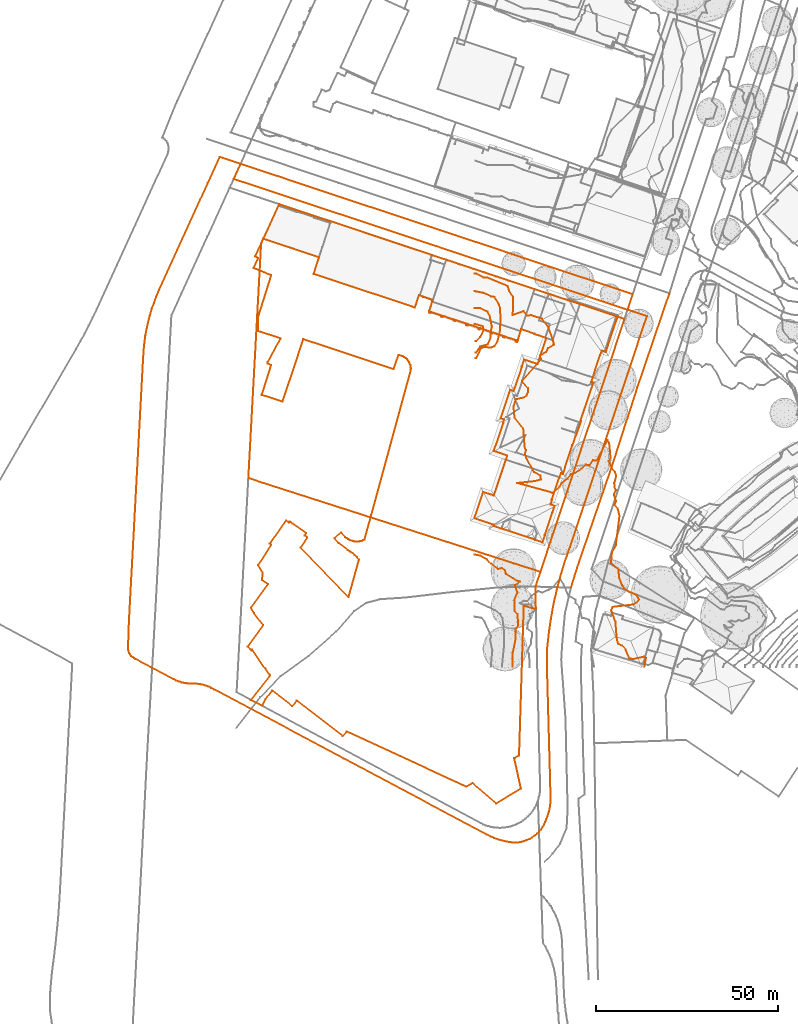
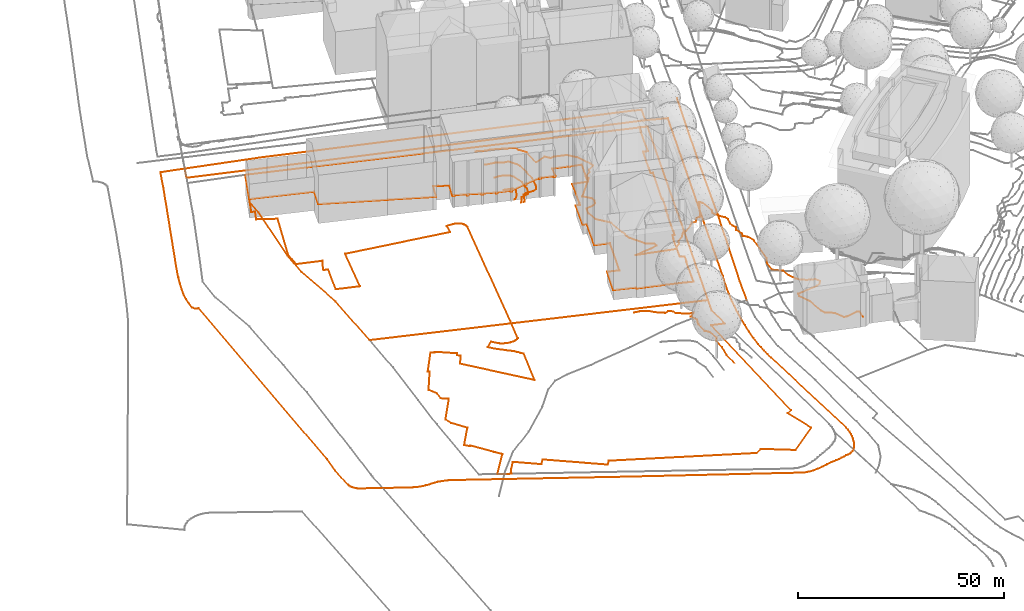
# Not in any storey, part 92 of 494: 10 proxies.
"""IFC2X3 model written with IfcOpenShell, lengths in metres."""

from ifc_helpers import new_model, entity, si_unit, frame, origin_with_axes, place, context, subcontext, project, element, save


model = new_model("IFC2X3")

# Units and contexts
model_context = context("Model", 3, precision=1e-05, world=origin_with_axes())
body_context = subcontext(model_context, "Body", "Model", "MODEL_VIEW")
ifc_project = project(units=[si_unit("AREAUNIT", "SQUARE_METRE"), si_unit("LENGTHUNIT", "METRE")], contexts=[model_context])

# Proxies
proxy_1_placement = place(None, frame((25.642732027, 20.4637425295, 527.881), z_axis=(0.0, 0.0, 1.0), x_axis=(1.0, 0.0, 0.0)))
element("IfcBuildingElementProxy", 1, at=proxy_1_placement, Name="Road 76", ObjectType="NOTDEFINED", context=body_context, shape_type="GeometricCurveSet", body=[
    entity("IfcGeometricCurveSet", [entity("IfcPolyline", [entity("IfcCartesianPoint", [0.0, 0.0, 0.0]), entity("IfcCartesianPoint", [2.3489999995, 7.4879997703, 0.317]), entity("IfcCartesianPoint", [11.4539999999, 33.9199989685, 0.851]), entity("IfcCartesianPoint", [18.2089999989, 54.9179983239, 1.247]), entity("IfcCartesianPoint", [27.0190000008, 80.7629975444, 1.587])])]),
])
proxy_2_placement = place(None, frame((-66.9082679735, 132.6027160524, 528.6036984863), z_axis=(0.0, 0.0, 1.0), x_axis=(1.0, 0.0, 0.0)))
element("IfcBuildingElementProxy", 2, at=proxy_2_placement, Name="Roads Outline 3", ObjectType="NOTDEFINED", context=body_context, shape_type="GeometricCurveSet", body=[
    entity("IfcGeometricCurveSet", [entity("IfcPolyline", [entity("IfcCartesianPoint", [0.0, 0.0, 0.0]), entity("IfcCartesianPoint", [1.8840000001, 4.1429999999, -0.4546460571]), entity("IfcCartesianPoint", [20.327, -1.9890000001, 0.2302937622]), entity("IfcCartesianPoint", [107.2760000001, -30.8959999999, 1.0697689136]), entity("IfcCartesianPoint", [109.5020000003, -31.6359999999, 1.0313595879]), entity("IfcCartesianPoint", [108.085, -35.899, 0.9999662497]), entity("IfcCartesianPoint", [0.0, 0.0, 0.0])])]),
])
proxy_3_placement = place(None, frame((-63.0402679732, 4.3537160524, 525.6837249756), z_axis=(0.0, 0.0, 1.0), x_axis=(1.0, 0.0, 0.0)))
element("IfcBuildingElementProxy", 3, at=proxy_3_placement, Name="Roads Outline 28", ObjectType="NOTDEFINED", context=body_context, shape_type="GeometricCurveSet", body=[
    entity("IfcGeometricCurveSet", [entity("IfcPolyline", [entity("IfcCartesianPoint", [0.0, 0.0, 0.0]), entity("IfcCartesianPoint", [4.264, 5.791, 0.1184112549]), entity("IfcCartesianPoint", [1.696, 9.1710000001, 0.4172806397]), entity("IfcCartesianPoint", [0.8769999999, 10.611, 0.8488730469]), entity("IfcCartesianPoint", [5.5499999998, 17.0220000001, 1.499630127]), entity("IfcCartesianPoint", [3.9180000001, 18.1300000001, 1.5220515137]), entity("IfcCartesianPoint", [4.102, 20.2070000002, 1.6666809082]), entity("IfcCartesianPoint", [2.858, 22.2610000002, 1.8861427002]), entity("IfcCartesianPoint", [6.4589999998, 27.9010000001, 2.6637408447]), entity("IfcCartesianPoint", [6.057, 28.1780000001, 2.6776043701]), entity("IfcCartesianPoint", [10.4649999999, 34.486, 2.8925315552]), entity("IfcCartesianPoint", [11.273, 33.9070000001, 2.8793292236]), entity("IfcCartesianPoint", [11.4899999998, 34.2170000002, 2.8852325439]), entity("IfcCartesianPoint", [12.3319999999, 33.6670000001, 2.8747589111]), entity("IfcCartesianPoint", [16.0269999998, 31.101, 2.764182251]), entity("IfcCartesianPoint", [15.571, 30.442, 2.7493804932]), entity("IfcCartesianPoint", [16.3429999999, 29.8900000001, 2.724289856]), entity("IfcCartesianPoint", [14.5299999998, 27.1510000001, 2.6037419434]), entity("IfcCartesianPoint", [27.645, 13.5900000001, 1.3920783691]), entity("IfcCartesianPoint", [30.5099999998, 23.807, 1.9889050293]), entity("IfcCartesianPoint", [29.9559999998, 24.4540000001, 2.0581810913]), entity("IfcCartesianPoint", [29.3489999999, 25.05, 2.1817536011]), entity("IfcCartesianPoint", [28.7519999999, 25.55, 2.2865168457]), entity("IfcCartesianPoint", [28.1179999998, 26.003, 2.3825692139]), entity("IfcCartesianPoint", [27.4499999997, 26.405, 2.4654605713]), entity("IfcCartesianPoint", [24.9649999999, 28.3570000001, 2.6849542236]), entity("IfcCartesianPoint", [23.7790000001, 29.71, 2.7148965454]), entity("IfcCartesianPoint", [25.585, 31.29, 2.7684273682]), entity("IfcCartesianPoint", [26.7719999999, 29.936, 2.7266903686]), entity("IfcCartesianPoint", [27.159, 29.6459999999, 2.7115567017]), entity("IfcCartesianPoint", [27.571, 29.3940000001, 2.6984060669]), entity("IfcCartesianPoint", [28.0049999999, 29.1810000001, 2.6930513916]), entity("IfcCartesianPoint", [28.4569999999, 29.01, 2.6913710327]), entity("IfcCartesianPoint", [28.9070000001, 28.8700000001, 2.6899953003]), entity("IfcCartesianPoint", [29.3700000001, 28.7820000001, 2.6891305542]), entity("IfcCartesianPoint", [29.8399999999, 28.746, 2.6887767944]), entity("IfcCartesianPoint", [30.3109999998, 28.763, 2.6889438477]), entity("IfcCartesianPoint", [30.7620000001, 28.8290000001, 2.6895924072]), entity("IfcCartesianPoint", [31.2029999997, 28.9450000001, 2.6907322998]), entity("IfcCartesianPoint", [31.6289999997, 29.108, 2.6923340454]), entity("IfcCartesianPoint", [32.034, 29.317, 2.6943878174]), entity("IfcCartesianPoint", [33.8739999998, 36.051, 2.9267637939]), entity("IfcCartesianPoint", [44.7399999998, 75.7890000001, 3.0942672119]), entity("IfcCartesianPoint", [44.7539999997, 76.2480000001, 3.092642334]), entity("IfcCartesianPoint", [44.7140000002, 76.7050000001, 3.0850093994]), entity("IfcCartesianPoint", [44.6189999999, 77.1540000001, 3.0764591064]), entity("IfcCartesianPoint", [44.4709999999, 77.5890000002, 3.0027486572]), entity("IfcCartesianPoint", [44.273, 78.003, 2.8952814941]), entity("IfcCartesianPoint", [44.0049999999, 78.419, 2.7870336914]), entity("IfcCartesianPoint", [43.6859999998, 78.797, 2.6879425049]), entity("IfcCartesianPoint", [43.321, 79.1310000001, 2.6003857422]), entity("IfcCartesianPoint", [42.9169999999, 79.416, 2.4823435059]), entity("IfcCartesianPoint", [42.4789999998, 79.6459999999, 2.3213828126]), entity("IfcCartesianPoint", [41.327, 79.983, 2.0855404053]), entity("IfcCartesianPoint", [40.0209999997, 76.064, 3.0932937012]), entity("IfcCartesianPoint", [15.2409999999, 84.2950000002, 0.3151472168]), entity("IfcCartesianPoint", [9.5180000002, 67.1510000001, 3.080034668]), entity("IfcCartesianPoint", [3.818, 69.0150000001, 3.0681838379]), entity("IfcCartesianPoint", [6.4109999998, 77.135, 3.0768209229]), entity("IfcCartesianPoint", [5.4589999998, 77.635, 2.9908078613]), entity("IfcCartesianPoint", [5.4839999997, 78.057, 2.8812640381]), entity("IfcCartesianPoint", [9.0039999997, 84.5060000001, 0.311003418]), entity("IfcCartesianPoint", [2.898, 86.5190000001, 0.2506137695]), entity("IfcCartesianPoint", [2.875, 90.5360000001, 0.6634082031]), entity("IfcCartesianPoint", [6.449, 101.851, 3.156569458]), entity("IfcCartesianPoint", [1.5809999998, 103.791, 3.5085565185]), entity("IfcCartesianPoint", [2.6459999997, 106.1170000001, 3.6748687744]), entity("IfcCartesianPoint", [2.8589999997, 106.5830000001, 3.6426917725]), entity("IfcCartesianPoint", [2.0249999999, 106.9650000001, 3.6142935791]), entity("IfcCartesianPoint", [3.676, 110.577, 3.7259869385]), entity("IfcCartesianPoint", [3.8859999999, 111.027, 3.7293377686]), entity("IfcCartesianPoint", [4.2689999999, 111.8630000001, 3.6867414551]), entity("IfcCartesianPoint", [19.5379999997, 106.7439999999, 3.6307229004]), entity("IfcCartesianPoint", [18.0609999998, 102.2110000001, 3.2285518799]), entity("IfcCartesianPoint", [34.3649999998, 96.7720000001, 2.0611691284]), entity("IfcCartesianPoint", [34.378, 96.8220000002, 2.0720303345]), entity("IfcCartesianPoint", [45.068, 93.2490000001, 1.2856575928]), entity("IfcCartesianPoint", [45.051, 93.182, 1.2708255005]), entity("IfcCartesianPoint", [45.8199999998, 92.9280000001, 1.2145963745]), entity("IfcCartesianPoint", [46.969, 96.3770000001, 1.9753656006]), entity("IfcCartesianPoint", [48.1430000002, 95.987, 1.8901043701]), entity("IfcCartesianPoint", [48.1069999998, 95.8800000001, 1.8666850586]), entity("IfcCartesianPoint", [50.7339999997, 95.0050000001, 1.6743912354]), entity("IfcCartesianPoint", [49.713, 91.939, 0.9936497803]), entity("IfcCartesianPoint", [49.824, 91.902, 0.9852624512]), entity("IfcCartesianPoint", [49.7229999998, 91.5990000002, 0.9165770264]), entity("IfcCartesianPoint", [50.1030000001, 91.4720000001, 0.8877880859]), entity("IfcCartesianPoint", [50.2069999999, 91.7850000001, 0.9587403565]), entity("IfcCartesianPoint", [53.1859999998, 90.794, 0.7259240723]), entity("IfcCartesianPoint", [53.0819999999, 90.4810000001, 0.6500811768]), entity("IfcCartesianPoint", [53.4619999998, 90.355, 0.6195501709]), entity("IfcCartesianPoint", [53.5660000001, 90.6680000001, 0.6953930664]), entity("IfcCartesianPoint", [56.602, 89.6570000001, 0.4510626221]), entity("IfcCartesianPoint", [56.4980000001, 89.344, 0.3755253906]), entity("IfcCartesianPoint", [56.8769999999, 89.2180000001, 0.3533472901]), entity("IfcCartesianPoint", [56.9819999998, 89.53, 0.4204133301]), entity("IfcCartesianPoint", [59.9909999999, 88.531, 0.2446617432]), entity("IfcCartesianPoint", [59.8859999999, 88.2170000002, 0.2113922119]), entity("IfcCartesianPoint", [60.2650000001, 88.091, 0.2121304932]), entity("IfcCartesianPoint", [60.3700000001, 88.405, 0.2247281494]), entity("IfcCartesianPoint", [63.3859999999, 87.399, 0.2578851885]), entity("IfcCartesianPoint", [63.2820000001, 87.0860000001, 0.2570379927]), entity("IfcCartesianPoint", [63.6519999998, 86.963, 0.2912049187]), entity("IfcCartesianPoint", [63.7560000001, 87.2760000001, 0.2851047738]), entity("IfcCartesianPoint", [66.7829999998, 86.2680000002, 1.6345501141]), entity("IfcCartesianPoint", [66.679, 85.9550000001, 1.5774089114]), entity("IfcCartesianPoint", [67.0579999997, 85.8290000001, 1.7542912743]), entity("IfcCartesianPoint", [67.162, 86.142, 1.8074264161]), entity("IfcCartesianPoint", [70.1889999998, 85.1340000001, 3.0522306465]), entity("IfcCartesianPoint", [70.085, 84.821, 3.0170545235]), entity("IfcCartesianPoint", [70.4550000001, 84.6980000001, 3.0848150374]), entity("IfcCartesianPoint", [70.5589999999, 85.0110000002, 3.0877237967]), entity("IfcCartesianPoint", [73.5869999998, 84.003, 3.0937452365]), entity("IfcCartesianPoint", [73.483, 83.6900000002, 3.0991529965]), entity("IfcCartesianPoint", [73.8619999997, 83.564, 3.088643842]), entity("IfcCartesianPoint", [73.963, 83.868, 3.0755243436]), entity("IfcCartesianPoint", [74.077, 83.8300000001, 3.0714270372]), entity("IfcCartesianPoint", [75.0079999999, 87.0060000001, 3.0131993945]), entity("IfcCartesianPoint", [78.7319999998, 85.767, 3.1050908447]), entity("IfcCartesianPoint", [78.7069999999, 85.6640000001, 3.1015668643]), entity("IfcCartesianPoint", [81.6329999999, 84.6910000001, 3.2339832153]), entity("IfcCartesianPoint", [81.8989999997, 84.6030000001, 3.2461398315]), entity("IfcCartesianPoint", [79.5249999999, 77.459, 3.3408582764]), entity("IfcCartesianPoint", [75.824, 78.6880000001, 3.2370737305]), entity("IfcCartesianPoint", [75.2080000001, 76.838, 3.2606502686]), entity("IfcCartesianPoint", [75.2549999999, 76.8220000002, 3.2619755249]), entity("IfcCartesianPoint", [73.2650000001, 70.8320000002, 3.2639450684]), entity("IfcCartesianPoint", [73.2179999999, 70.848, 3.2631072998]), entity("IfcCartesianPoint", [72.952, 70.0490000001, 3.2651387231]), entity("IfcCartesianPoint", [71.9909999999, 70.368, 3.246715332]), entity("IfcCartesianPoint", [69.3930000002, 62.557, 3.2155612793]), entity("IfcCartesianPoint", [70.355, 62.2380000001, 3.2365511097]), entity("IfcCartesianPoint", [70.0959999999, 61.459, 3.2249758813]), entity("IfcCartesianPoint", [70.1439999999, 61.443, 3.2258059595]), entity("IfcCartesianPoint", [68.1409999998, 55.416, 3.1797402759]), entity("IfcCartesianPoint", [68.0929999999, 55.432, 3.1790493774]), entity("IfcCartesianPoint", [67.486, 53.605, 3.1907124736]), entity("IfcCartesianPoint", [71.1869999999, 52.375, 3.2233741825]), entity("IfcCartesianPoint", [67.5279999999, 41.368, 3.1102470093]), entity("IfcCartesianPoint", [64.5809999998, 42.348, 3.1686398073]), entity("IfcCartesianPoint", [62.1770000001, 35.142, 2.9134719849]), entity("IfcCartesianPoint", [67.568, 33.351, 2.8561185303]), entity("IfcCartesianPoint", [67.4509999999, 33.0, 2.8432216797]), entity("IfcCartesianPoint", [69.4440000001, 32.3370000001, 2.8527307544]), entity("IfcCartesianPoint", [69.46, 32.3840000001, 2.8544819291]), entity("IfcCartesianPoint", [78.9219999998, 29.24, 2.9057092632]), entity("IfcCartesianPoint", [78.906, 29.193, 2.9048253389]), entity("IfcCartesianPoint", [80.8789999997, 28.5380000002, 2.8714425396]), entity("IfcCartesianPoint", [81.5419999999, 30.531, 2.9297599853]), entity("IfcCartesianPoint", [81.4950000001, 30.547, 2.9304465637]), entity("IfcCartesianPoint", [83.4950000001, 36.564, 3.0985984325]), entity("IfcCartesianPoint", [83.5419999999, 36.548, 3.0947475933]), entity("IfcCartesianPoint", [84.2089999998, 38.5520000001, 3.1293281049]), entity("IfcCartesianPoint", [83.0589999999, 38.9340000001, 3.1891395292]), entity("IfcCartesianPoint", [83.4899999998, 40.2250000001, 3.1802594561]), entity("IfcCartesianPoint", [83.443, 40.2410000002, 3.1805015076]), entity("IfcCartesianPoint", [85.446, 46.2580000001, 3.3652413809]), entity("IfcCartesianPoint", [85.4929999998, 46.2420000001, 3.3628481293]), entity("IfcCartesianPoint", [85.923, 47.5320000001, 3.414232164]), entity("IfcCartesianPoint", [86.4920000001, 47.3420000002, 3.3829816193]), entity("IfcCartesianPoint", [87.105, 49.1840000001, 3.4065753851]), entity("IfcCartesianPoint", [87.0579999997, 49.2, 3.4109757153]), entity("IfcCartesianPoint", [89.0619999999, 55.216, 3.4953983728]), entity("IfcCartesianPoint", [89.1089999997, 55.2, 3.4923149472]), entity("IfcCartesianPoint", [89.6680000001, 56.879, 3.531707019]), entity("IfcCartesianPoint", [89.6209999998, 56.895, 3.5355511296]), entity("IfcCartesianPoint", [89.9399999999, 57.8540000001, 3.5630180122]), entity("IfcCartesianPoint", [90.1009999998, 57.8, 3.5457037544]), entity("IfcCartesianPoint", [91.4539999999, 61.8640000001, 3.5692105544]), entity("IfcCartesianPoint", [91.2909999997, 61.9180000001, 3.5771376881]), entity("IfcCartesianPoint", [94.8360000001, 72.398, 3.7109557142]), entity("IfcCartesianPoint", [94.267, 72.588, 3.7447742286]), entity("IfcCartesianPoint", [94.8829999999, 74.4380000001, 3.8181295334]), entity("IfcCartesianPoint", [94.8360000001, 74.4540000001, 3.8228062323]), entity("IfcCartesianPoint", [96.6529999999, 79.9100000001, 3.8535547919]), entity("IfcCartesianPoint", [96.6999999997, 79.8940000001, 3.8507631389]), entity("IfcCartesianPoint", [97.128, 81.1780000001, 3.8687179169]), entity("IfcCartesianPoint", [98.2560000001, 80.8030000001, 3.8167791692]), entity("IfcCartesianPoint", [98.9249999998, 82.794, 3.8403510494]), entity("IfcCartesianPoint", [98.878, 82.8100000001, 3.8439484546]), entity("IfcCartesianPoint", [100.8969999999, 88.8200000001, 3.9248877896]), entity("IfcCartesianPoint", [100.9440000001, 88.804, 3.9197014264]), entity("IfcCartesianPoint", [101.4929999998, 90.4380000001, 3.9540633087]), entity("IfcCartesianPoint", [103.3730000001, 89.8120000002, 3.8876880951]), entity("IfcCartesianPoint", [80.298, 20.4070000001, 2.5428819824]), entity("IfcCartesianPoint", [78.9279999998, 16.2760000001, 2.4160954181]), entity("IfcCartesianPoint", [79.0729999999, 10.2080000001, 2.2072965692]), entity("IfcCartesianPoint", [75.7429999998, 11.102, 2.3491719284]), entity("IfcCartesianPoint", [74.4559999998, -29.939, 2.5237546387]), entity("IfcCartesianPoint", [73.1349999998, -30.692, 2.4504216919]), entity("IfcCartesianPoint", [74.9729999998, -38.963, 2.5195578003]), entity("IfcCartesianPoint", [68.125, -43.122, 0.8424121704]), entity("IfcCartesianPoint", [61.6359999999, -37.4949999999, 0.0167755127]), entity("IfcCartesianPoint", [59.9399999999, -38.513, 0.0167755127]), entity("IfcCartesianPoint", [27.1319999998, -23.352, 0.0167755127]), entity("IfcCartesianPoint", [26.088, -24.659, 0.0167755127]), entity("IfcCartesianPoint", [13.4580000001, -14.8569999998, 0.0167755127]), entity("IfcCartesianPoint", [12.2199999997, -16.4379999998, 0.0167755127]), entity("IfcCartesianPoint", [6.6869999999, -12.105, 0.0167755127]), entity("IfcCartesianPoint", [4.8560000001, -14.51, 0.0167755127]), entity("IfcCartesianPoint", [3.8629999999, -16.311, 0.0167755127]), entity("IfcCartesianPoint", [0.841, -14.6909999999, 0.0167755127]), entity("IfcCartesianPoint", [6.1319999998, -7.986, 0.0167755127]), entity("IfcCartesianPoint", [5.9339999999, -7.699, 0.0167755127]), entity("IfcCartesianPoint", [4.827, -6.1579999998, 0.0167755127]), entity("IfcCartesianPoint", [1.2239999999, -0.899, 0.0017784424]), entity("IfcCartesianPoint", [1.0430000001, -1.1509999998, 0.0062850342]), entity("IfcCartesianPoint", [0.0, 0.0, 0.0])])]),
])
proxy_4_placement = place(None, frame((-95.8792679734, 3.9717160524, 525.6825592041), z_axis=(0.0, 0.0, 1.0), x_axis=(1.0, 0.0, 0.0)))
element("IfcBuildingElementProxy", 4, at=proxy_4_placement, Name="Roads Outline 29", ObjectType="NOTDEFINED", context=body_context, shape_type="GeometricCurveSet", body=[
    entity("IfcGeometricCurveSet", [entity("IfcPolyline", [entity("IfcCartesianPoint", [0.0, 0.0, 0.0]), entity("IfcCartesianPoint", [0.2090000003, 6.5220000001, 0.1259674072]), entity("IfcCartesianPoint", [0.4309999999, 10.8390000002, 0.8052130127]), entity("IfcCartesianPoint", [4.1469999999, 79.716, 2.5408952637]), entity("IfcCartesianPoint", [4.2660000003, 81.645, 1.1758549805]), entity("IfcCartesianPoint", [4.4580000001, 83.568, 0.352380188]), entity("IfcCartesianPoint", [4.7230000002, 85.4820000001, 0.3002050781]), entity("IfcCartesianPoint", [5.0600000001, 87.385, 0.2311894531]), entity("IfcCartesianPoint", [5.4700000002, 89.274, 0.3029388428]), entity("IfcCartesianPoint", [5.9360000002, 91.084, 0.7047973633]), entity("IfcCartesianPoint", [6.4670000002, 92.8759999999, 1.1196856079]), entity("IfcCartesianPoint", [7.0649999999, 94.6459999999, 1.5115184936]), entity("IfcCartesianPoint", [7.727, 96.3940000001, 1.8967419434]), entity("IfcCartesianPoint", [8.4530000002, 98.1160000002, 2.2713045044]), entity("IfcCartesianPoint", [21.8790000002, 127.578, 3.0430595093]), entity("IfcCartesianPoint", [25.125, 134.679, 2.2582330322]), entity("IfcCartesianPoint", [30.855, 132.774, 2.4664932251]), entity("IfcCartesianPoint", [28.9709999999, 128.6310000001, 2.9211392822]), entity("IfcCartesianPoint", [137.0559999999, 92.7320000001, 3.9211055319]), entity("IfcCartesianPoint", [142.355, 90.9720000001, 3.7318244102]), entity("IfcCartesianPoint", [141.6189999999, 88.7720000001, 3.6959359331]), entity("IfcCartesianPoint", [121.25, 27.679, 2.6218205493]), entity("IfcCartesianPoint", [120.4100000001, 25.325, 2.5217339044]), entity("IfcCartesianPoint", [119.6260000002, 22.952, 2.4582699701]), entity("IfcCartesianPoint", [118.8969999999, 20.561, 2.3808017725]), entity("IfcCartesianPoint", [118.2239999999, 18.1529999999, 2.2891087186]), entity("IfcCartesianPoint", [117.608, 15.7310000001, 2.2245042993]), entity("IfcCartesianPoint", [117.0490000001, 13.2950000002, 2.1167274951]), entity("IfcCartesianPoint", [116.5, 10.6000000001, 2.0274228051]), entity("IfcCartesianPoint", [116.0210000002, 7.892, 1.9163168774]), entity("IfcCartesianPoint", [115.6120000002, 5.172, 1.8078262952]), entity("IfcCartesianPoint", [115.273, 2.443, 1.7109503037]), entity("IfcCartesianPoint", [115.0049999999, -0.294, 1.6093416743]), entity("IfcCartesianPoint", [115.0249999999, -1.713, 1.533269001]), entity("IfcCartesianPoint", [115.0330000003, -3.132, 1.4580318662]), entity("IfcCartesianPoint", [115.0240000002, -4.852, 1.4025044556]), entity("IfcCartesianPoint", [114.9939999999, -6.5719999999, 1.404428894]), entity("IfcCartesianPoint", [115.9610000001, -41.355, 1.4358656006]), entity("IfcCartesianPoint", [115.923, -42.3529999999, 1.4343742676]), entity("IfcCartesianPoint", [115.8170000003, -43.3459999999, 1.4302142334]), entity("IfcCartesianPoint", [115.6430000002, -44.3289999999, 1.4233854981]), entity("IfcCartesianPoint", [115.4020000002, -45.2989999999, 1.4139273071]), entity("IfcCartesianPoint", [115.0950000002, -46.2490000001, 1.4018789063]), entity("IfcCartesianPoint", [114.7239999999, -47.176, 1.4217488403]), entity("IfcCartesianPoint", [114.4450000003, -47.8869999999, 1.4396461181]), entity("IfcCartesianPoint", [114.1090000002, -48.5729999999, 1.4611998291]), entity("IfcCartesianPoint", [113.7179999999, -49.23, 1.4776121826]), entity("IfcCartesianPoint", [113.2760000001, -49.8529999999, 1.4946619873]), entity("IfcCartesianPoint", [112.784, -50.4379999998, 1.5309696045]), entity("IfcCartesianPoint", [112.199, -51.0249999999, 1.5906693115]), entity("IfcCartesianPoint", [111.5649999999, -51.558, 1.7598414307]), entity("IfcCartesianPoint", [110.8870000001, -52.0330000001, 1.9723870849]), entity("IfcCartesianPoint", [110.1690000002, -52.446, 2.1955350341]), entity("IfcCartesianPoint", [109.4169999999, -52.7949999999, 2.4012420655]), entity("IfcCartesianPoint", [108.6380000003, -53.0759999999, 2.5063232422]), entity("IfcCartesianPoint", [107.8370000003, -53.2879999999, 2.5205206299]), entity("IfcCartesianPoint", [107.0210000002, -53.4269999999, 2.5245672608]), entity("IfcCartesianPoint", [106.1950000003, -53.4949999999, 2.4721356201]), entity("IfcCartesianPoint", [105.0300000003, -53.385, 2.3143251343]), entity("IfcCartesianPoint", [103.875, -53.2049999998, 1.9795073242]), entity("IfcCartesianPoint", [102.7320000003, -52.9539999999, 1.5134887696]), entity("IfcCartesianPoint", [101.608, -52.6329999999, 1.1125405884]), entity("IfcCartesianPoint", [100.5040000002, -52.2439999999, 0.7050781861]), entity("IfcCartesianPoint", [99.4270000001, -51.7879999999, 0.413838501]), entity("IfcCartesianPoint", [98.3799999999, -51.267, 0.2103104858]), entity("IfcCartesianPoint", [59.1550000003, -30.368, 0.0179412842]), entity("IfcCartesianPoint", [23.5959999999, -11.4139999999, 0.0179412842]), entity("IfcCartesianPoint", [22.841, -11.0079999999, 0.0179412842]), entity("IfcCartesianPoint", [22.0580000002, -10.6580000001, 0.0179412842]), entity("IfcCartesianPoint", [21.2519999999, -10.3669999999, 0.0179412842]), entity("IfcCartesianPoint", [20.426, -10.1359999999, 0.0179412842]), entity("IfcCartesianPoint", [19.5860000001, -9.9669999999, 0.0179412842]), entity("IfcCartesianPoint", [18.7349999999, -9.8589999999, 0.0179412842]), entity("IfcCartesianPoint", [17.8790000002, -9.8149999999, 0.0179412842]), entity("IfcCartesianPoint", [17.0830000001, -9.825, 0.0179412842]), entity("IfcCartesianPoint", [16.2880000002, -9.7759999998, 0.0179412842]), entity("IfcCartesianPoint", [15.4990000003, -9.6669999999, 0.0179412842]), entity("IfcCartesianPoint", [14.7200000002, -9.4990000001, 0.0179412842]), entity("IfcCartesianPoint", [13.9569999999, -9.273, 0.0179412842]), entity("IfcCartesianPoint", [13.2120000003, -8.99, 0.0179412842]), entity("IfcCartesianPoint", [12.4909999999, -8.652, 0.0179412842]), entity("IfcCartesianPoint", [6.611, -5.534, 0.0179412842]), entity("IfcCartesianPoint", [2.0060000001, -3.0919999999, 0.04662323]), entity("IfcCartesianPoint", [1.5830000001, -2.855, 0.0368591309]), entity("IfcCartesianPoint", [1.1970000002, -2.5619999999, 0.0247879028]), entity("IfcCartesianPoint", [0.855, -2.2179999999, 0.0142781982]), entity("IfcCartesianPoint", [0.5640000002, -1.831, 0.0154119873]), entity("IfcCartesianPoint", [0.3289999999, -1.4069999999, 0.0166541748]), entity("IfcCartesianPoint", [0.1540000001, -0.9549999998, 0.0107770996]), entity("IfcCartesianPoint", [0.0440000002, -0.483, 0.0023361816]), entity("IfcCartesianPoint", [0.0, 0.0, 0.0])])]),
])
proxy_5_placement = place(None, frame((-62.8782679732, 50.5037160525, 528.799663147), z_axis=(0.0, 0.0, 1.0), x_axis=(1.0, 0.0, 0.0)))
element("IfcBuildingElementProxy", 5, at=proxy_5_placement, Name="Cadastre 82", ObjectType="NOTDEFINED", context=body_context, shape_type="GeometricCurveSet", body=[
    entity("IfcGeometricCurveSet", [entity("IfcPolyline", [entity("IfcCartesianPoint", [0.0, 0.0, 0.0]), entity("IfcCartesianPoint", [0.9920000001, 18.2689999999, -0.0045663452]), entity("IfcCartesianPoint", [1.9920000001, 36.5319999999, -2.6836051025]), entity("IfcCartesianPoint", [2.4129999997, 44.1529999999, -2.5089744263]), entity("IfcCartesianPoint", [3.2539999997, 59.6159999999, 0.5806967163]), entity("IfcCartesianPoint", [3.514, 64.4269999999, 0.6100487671]), entity("IfcCartesianPoint", [3.7239999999, 64.8769999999, 0.6133995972]), entity("IfcCartesianPoint", [8.4449999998, 75.179, 0.5034064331]), entity("IfcCartesianPoint", [103.2110000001, 43.662, 0.7717499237]), entity("IfcCartesianPoint", [80.1359999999, -25.743, -0.573056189]), entity("IfcCartesianPoint", [0.0, 0.0, 0.0])])]),
])
proxy_6_placement = place(None, frame((-0.8222679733, 88.0750985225, 526.0), z_axis=(0.0, 0.0, 1.0), x_axis=(1.0, 0.0, 0.0)))
element("IfcBuildingElementProxy", 6, at=proxy_6_placement, Name="Contour Line 526.0 m", ObjectType="NOTDEFINED", context=body_context, shape_type="GeometricCurveSet", body=[
    entity("IfcGeometricCurveSet", [entity("IfcPolyline", [entity("IfcCartesianPoint", [0.0, 0.0, 0.0]), entity("IfcCartesianPoint", [0.5, 0.0, 0.0]), entity("IfcCartesianPoint", [1.5, 1.0852548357, 0.0]), entity("IfcCartesianPoint", [2.5031144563, 3.0956175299, 0.0]), entity("IfcCartesianPoint", [2.3101694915, 4.0956175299, 0.0]), entity("IfcCartesianPoint", [0.0, 4.7622841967, 0.0])])]),
])
proxy_7_placement = place(None, frame((-0.8222679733, 84.9189039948, 527.0), z_axis=(0.0, 0.0, 1.0), x_axis=(1.0, 0.0, 0.0)))
element("IfcBuildingElementProxy", 7, at=proxy_7_placement, Name="Contour Line 527.0 m", ObjectType="NOTDEFINED", context=body_context, shape_type="GeometricCurveSet", body=[
    entity("IfcGeometricCurveSet", [entity("IfcPolyline", [entity("IfcCartesianPoint", [0.0, 0.0, 0.0]), entity("IfcCartesianPoint", [0.5, 0.0, 0.0]), entity("IfcCartesianPoint", [1.5, 1.7560593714, 0.0]), entity("IfcCartesianPoint", [3.6307148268, 2.2518120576, 0.0]), entity("IfcCartesianPoint", [4.4724129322, 4.2518120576, 0.0]), entity("IfcCartesianPoint", [4.3928955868, 5.2518120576, 0.0]), entity("IfcCartesianPoint", [4.7776724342, 7.2518120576, 0.0]), entity("IfcCartesianPoint", [4.161431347, 10.2518120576, 0.0]), entity("IfcCartesianPoint", [3.5601785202, 11.2518120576, 0.0]), entity("IfcCartesianPoint", [1.5, 12.2413651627, 0.0]), entity("IfcCartesianPoint", [0.0, 12.3221180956, 0.0])])]),
])
proxy_8_placement = place(None, frame((-0.8222679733, 83.5070146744, 528.0), z_axis=(0.0, 0.0, 1.0), x_axis=(1.0, 0.0, 0.0)))
element("IfcBuildingElementProxy", 8, at=proxy_8_placement, Name="Contour Line 528.0 m", ObjectType="NOTDEFINED", context=body_context, shape_type="GeometricCurveSet", body=[
    entity("IfcGeometricCurveSet", [entity("IfcPolyline", [entity("IfcCartesianPoint", [0.0, 0.0, 0.0]), entity("IfcCartesianPoint", [0.5, 0.0, 0.0]), entity("IfcCartesianPoint", [1.7891566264, 2.663701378, 0.0]), entity("IfcCartesianPoint", [2.5, 2.9526759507, 0.0]), entity("IfcCartesianPoint", [4.5, 2.8550368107, 0.0]), entity("IfcCartesianPoint", [5.5, 3.2095516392, 0.0]), entity("IfcCartesianPoint", [6.3196060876, 4.663701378, 0.0]), entity("IfcCartesianPoint", [7.0425257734, 7.663701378, 0.0]), entity("IfcCartesianPoint", [7.1536831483, 10.663701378, 0.0]), entity("IfcCartesianPoint", [7.0342199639, 13.663701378, 0.0]), entity("IfcCartesianPoint", [6.739962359, 14.663701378, 0.0]), entity("IfcCartesianPoint", [5.5, 16.7309648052, 0.0]), entity("IfcCartesianPoint", [4.5, 16.8634232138, 0.0]), entity("IfcCartesianPoint", [2.5, 17.8417278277, 0.0]), entity("IfcCartesianPoint", [0.0, 18.2930916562, 0.0])])]),
])
proxy_9_placement = place(None, frame((-0.8222679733, 29.5440608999, 528.0), z_axis=(0.0, 0.0, 1.0), x_axis=(1.0, 0.0, 0.0)))
element("IfcBuildingElementProxy", 9, at=proxy_9_placement, Name="Contour Line 528.0 m", ObjectType="NOTDEFINED", context=body_context, shape_type="GeometricCurveSet", body=[
    entity("IfcGeometricCurveSet", [entity("IfcPolyline", [entity("IfcCartesianPoint", [10.4849800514, -30.8733448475, 0.0]), entity("IfcCartesianPoint", [10.5, -26.9536851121, 0.0]), entity("IfcCartesianPoint", [11.2410810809, -23.3733448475, 0.0]), entity("IfcCartesianPoint", [11.3264101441, -20.3733448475, 0.0]), entity("IfcCartesianPoint", [12.0320776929, -19.3733448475, 0.0]), entity("IfcCartesianPoint", [11.7942222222, -16.3733448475, 0.0]), entity("IfcCartesianPoint", [10.9920466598, -15.3733448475, 0.0]), entity("IfcCartesianPoint", [10.9619047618, -12.3733448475, 0.0]), entity("IfcCartesianPoint", [11.7676363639, -10.3733448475, 0.0]), entity("IfcCartesianPoint", [11.107505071, -8.3733448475, 0.0]), entity("IfcCartesianPoint", [12.5681028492, -7.3733448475, 0.0]), entity("IfcCartesianPoint", [11.5, -7.1633209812, 0.0]), entity("IfcCartesianPoint", [8.6244147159, -5.3733448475, 0.0]), entity("IfcCartesianPoint", [8.4353214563, -4.3733448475, 0.0]), entity("IfcCartesianPoint", [7.5, -3.7023251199, 0.0]), entity("IfcCartesianPoint", [6.5, -3.9597760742, 0.0]), entity("IfcCartesianPoint", [4.5, -2.5115959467, 0.0]), entity("IfcCartesianPoint", [3.4586899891, -1.3733448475, 0.0]), entity("IfcCartesianPoint", [1.5, -0.3017078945, 0.0]), entity("IfcCartesianPoint", [0.0, 0.0, 0.0])])]),
])
proxy_10_placement = place(None, frame((-0.8222679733, 106.5861123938, 529.0), z_axis=(0.0, 0.0, 1.0), x_axis=(1.0, 0.0, 0.0)))
element("IfcBuildingElementProxy", 10, at=proxy_10_placement, Name="Contour Line 529.0 m", ObjectType="NOTDEFINED", context=body_context, shape_type="GeometricCurveSet", body=[
    entity("IfcGeometricCurveSet", [entity("IfcPolyline", [entity("IfcCartesianPoint", [46.5698735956, -107.9153963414, 0.0]), entity("IfcCartesianPoint", [47.0455882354, -105.4153963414, 0.0]), entity("IfcCartesianPoint", [46.5, -105.066055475, 0.0]), entity("IfcCartesianPoint", [43.5, -105.7167146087, 0.0]), entity("IfcCartesianPoint", [42.5, -105.5186073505, 0.0]), entity("IfcCartesianPoint", [41.5, -103.0559831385, 0.0]), entity("IfcCartesianPoint", [40.5, -102.0856091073, 0.0]), entity("IfcCartesianPoint", [39.5, -101.576686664, 0.0]), entity("IfcCartesianPoint", [39.0976548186, -100.4153963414, 0.0]), entity("IfcCartesianPoint", [38.661016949, -95.4153963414, 0.0]), entity("IfcCartesianPoint", [37.5542892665, -92.4153963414, 0.0]), entity("IfcCartesianPoint", [37.8526970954, -91.4153963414, 0.0]), entity("IfcCartesianPoint", [43.5, -90.7710319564, 0.0]), entity("IfcCartesianPoint", [44.5, -90.189022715, 0.0]), entity("IfcCartesianPoint", [45.1591760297, -89.4153963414, 0.0]), entity("IfcCartesianPoint", [44.5, -88.1324603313, 0.0]), entity("IfcCartesianPoint", [42.5, -87.3254927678, 0.0]), entity("IfcCartesianPoint", [41.2446252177, -86.4153963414, 0.0]), entity("IfcCartesianPoint", [40.5, -85.4525864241, 0.0]), entity("IfcCartesianPoint", [39.7236617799, -83.4153963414, 0.0]), entity("IfcCartesianPoint", [39.5, -81.1181298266, 0.0]), entity("IfcCartesianPoint", [37.4488128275, -79.4153963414, 0.0]), entity("IfcCartesianPoint", [37.7410788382, -76.4153963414, 0.0]), entity("IfcCartesianPoint", [38.8027234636, -74.4153963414, 0.0]), entity("IfcCartesianPoint", [39.8161925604, -66.4153963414, 0.0]), entity("IfcCartesianPoint", [39.3298507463, -64.4153963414, 0.0]), entity("IfcCartesianPoint", [38.4470338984, -63.4153963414, 0.0]), entity("IfcCartesianPoint", [38.8061728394, -62.4153963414, 0.0]), entity("IfcCartesianPoint", [38.2623590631, -60.4153963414, 0.0]), entity("IfcCartesianPoint", [38.8037974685, -59.4153963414, 0.0]), entity("IfcCartesianPoint", [38.4050203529, -58.4153963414, 0.0]), entity("IfcCartesianPoint", [38.3765690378, -57.4153963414, 0.0]), entity("IfcCartesianPoint", [38.9104803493, -55.4153963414, 0.0]), entity("IfcCartesianPoint", [38.6028225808, -54.4153963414, 0.0]), entity("IfcCartesianPoint", [37.7876712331, -53.4153963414, 0.0]), entity("IfcCartesianPoint", [36.842256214, -51.4153963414, 0.0]), entity("IfcCartesianPoint", [37.3528481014, -50.4153963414, 0.0]), entity("IfcCartesianPoint", [36.9727272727, -46.4153963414, 0.0]), entity("IfcCartesianPoint", [36.5, -45.6381168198, 0.0]), entity("IfcCartesianPoint", [33.5, -51.2207199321, 0.0]), entity("IfcCartesianPoint", [32.5, -51.1726095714, 0.0]), entity("IfcCartesianPoint", [31.5, -52.5573939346, 0.0]), entity("IfcCartesianPoint", [30.5, -52.3365581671, 0.0]), entity("IfcCartesianPoint", [29.4401993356, -53.4153963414, 0.0]), entity("IfcCartesianPoint", [27.5, -54.706347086, 0.0]), entity("IfcCartesianPoint", [26.5, -54.9473890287, 0.0]), entity("IfcCartesianPoint", [25.5, -56.2038060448, 0.0]), entity("IfcCartesianPoint", [23.8402889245, -57.4153963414, 0.0]), entity("IfcCartesianPoint", [23.412914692, -58.4153963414, 0.0]), entity("IfcCartesianPoint", [21.5, -60.1143314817, 0.0]), entity("IfcCartesianPoint", [11.7516129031, -57.4153963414, 0.0]), entity("IfcCartesianPoint", [16.5, -56.9011369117, 0.0]), entity("IfcCartesianPoint", [18.2229551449, -56.4153963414, 0.0]), entity("IfcCartesianPoint", [18.1314465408, -55.4153963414, 0.0]), entity("IfcCartesianPoint", [16.3506666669, -54.4153963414, 0.0]), entity("IfcCartesianPoint", [14.1744186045, -50.4153963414, 0.0]), entity("IfcCartesianPoint", [13.8606060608, -49.4153963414, 0.0]), entity("IfcCartesianPoint", [14.1085526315, -48.4153963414, 0.0]), entity("IfcCartesianPoint", [13.7647058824, -47.4153963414, 0.0]), entity("IfcCartesianPoint", [13.3950819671, -42.4153963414, 0.0]), entity("IfcCartesianPoint", [11.0082742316, -39.4153963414, 0.0]), entity("IfcCartesianPoint", [10.7141057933, -36.4153963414, 0.0]), entity("IfcCartesianPoint", [11.3825136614, -34.4153963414, 0.0]), entity("IfcCartesianPoint", [13.5, -33.972183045, 0.0]), entity("IfcCartesianPoint", [14.2790697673, -33.4153963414, 0.0]), entity("IfcCartesianPoint", [14.6666666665, -32.4153963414, 0.0]), entity("IfcCartesianPoint", [14.730769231, -31.4153963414, 0.0]), entity("IfcCartesianPoint", [13.0179372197, -29.4153963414, 0.0]), entity("IfcCartesianPoint", [18.2698019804, -23.4153963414, 0.0]), entity("IfcCartesianPoint", [17.9617691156, -22.4153963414, 0.0]), entity("IfcCartesianPoint", [19.698561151, -21.4153963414, 0.0]), entity("IfcCartesianPoint", [20.1332794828, -20.4153963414, 0.0]), entity("IfcCartesianPoint", [21.7781250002, -19.4153963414, 0.0]), entity("IfcCartesianPoint", [21.6351351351, -18.4153963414, 0.0]), entity("IfcCartesianPoint", [20.1815511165, -14.4153963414, 0.0]), entity("IfcCartesianPoint", [18.5, -12.3465626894, 0.0]), entity("IfcCartesianPoint", [15.5, -11.3606459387, 0.0]), entity("IfcCartesianPoint", [14.5, -11.4619716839, 0.0]), entity("IfcCartesianPoint", [13.5, -10.279803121, 0.0]), entity("IfcCartesianPoint", [10.5, -11.2644285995, 0.0]), entity("IfcCartesianPoint", [10.6347818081, -6.4153963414, 0.0]), entity("IfcCartesianPoint", [9.5, -4.6084518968, 0.0]), entity("IfcCartesianPoint", [9.1436870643, -3.4153963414, 0.0]), entity("IfcCartesianPoint", [3.5, -1.0315501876, 0.0]), entity("IfcCartesianPoint", [2.5, -1.0003700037, 0.0]), entity("IfcCartesianPoint", [0.5, 0.0, 0.0]), entity("IfcCartesianPoint", [0.0, 0.0, 0.0])])]),
])

save(model, "model.ifc")
